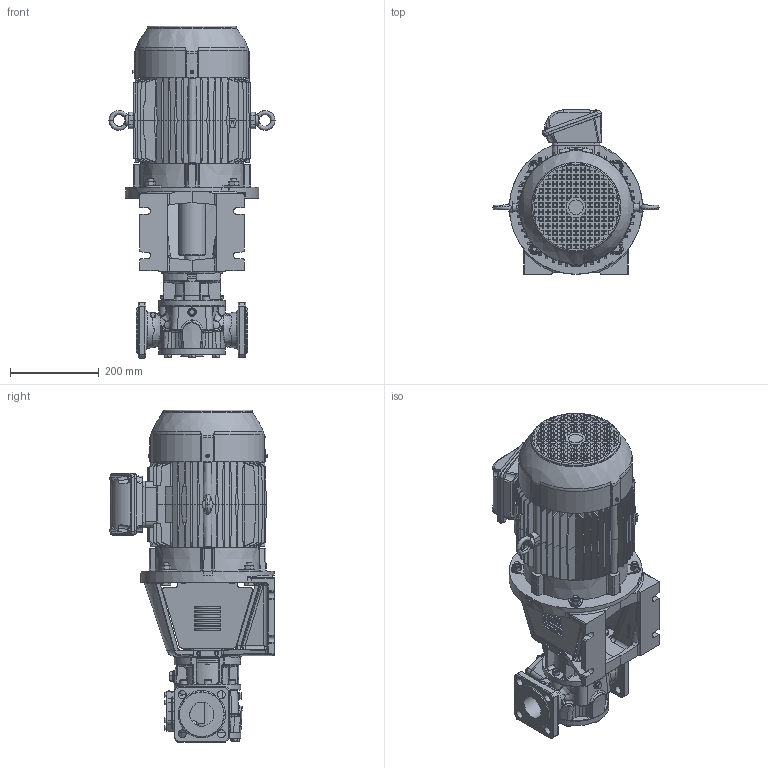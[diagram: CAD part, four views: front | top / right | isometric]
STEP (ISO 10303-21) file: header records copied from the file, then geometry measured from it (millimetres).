
FILE_DESCRIPTION(/* description */ (''),/* implementation_level */ '2;1');
FILE_NAME(/* name */ 'C:\V\JPP\Designs\GEAR PUMPS\PRODUCT ENGINEERING\EUROPE\TG BLOC\TG BLOC_15-50_G2_O_NRV-_132S-STEP.stp',/* time_stamp */ '2021-03-16T17:02:28+01:00',/* author */ ('A77THR'),/* organization */ (''),/* preprocessor_version */ 'ST-DEVELOPER v18.1',/* originating_system */ 'Autodesk Inventor 2020',/* authorisation */ '');
FILE_SCHEMA (('AUTOMOTIVE_DESIGN { 1 0 10303 214 3 1 1 }'));
Products named in the file (1): TG BLOC_15-50_G2_O_NRV-_132S
Bounding box: 373.99 x 370.15 x 747.7 mm (x, y, z)
Volume: 24359174.2 mm3; surface area: 1459634.8 mm2
Topology: 1 solids, 1 shells, 4847 faces, 12441 edges, 7922 vertices
Faces by surface type: plane 2869, bspline 830, cylinder 625, cone 347, torus 135, sphere 41
Full cylindrical faces by diameter (mm): 4 x1, 4.5 x4, 4.917 x4, 5 x4, 5.459 x8, 6 x11, 6.647 x1, 7 x8, 8.376 x5, 8.5 x2, 8.7 x8, 9.188 x4, 10 x12, 10.5 x1, 11.445 x2, 11.5 x4, 12 x9, 13 x4, 15.011 x3, 15.4 x10, 16 x10, 17.2 x4, 17.9 x3, 18 x11, 19 x3, 21.939 x1, 25.9 x1, 26 x1, 27.9 x1, 28 x1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
Entity records: 198876 total; most frequent: CARTESIAN_POINT 83070, ORIENTED_EDGE 24726, DIRECTION 20457, EDGE_CURVE 12363, VERTEX_POINT 7922, AXIS2_PLACEMENT_3D 6820, LINE 6817, VECTOR 6817
